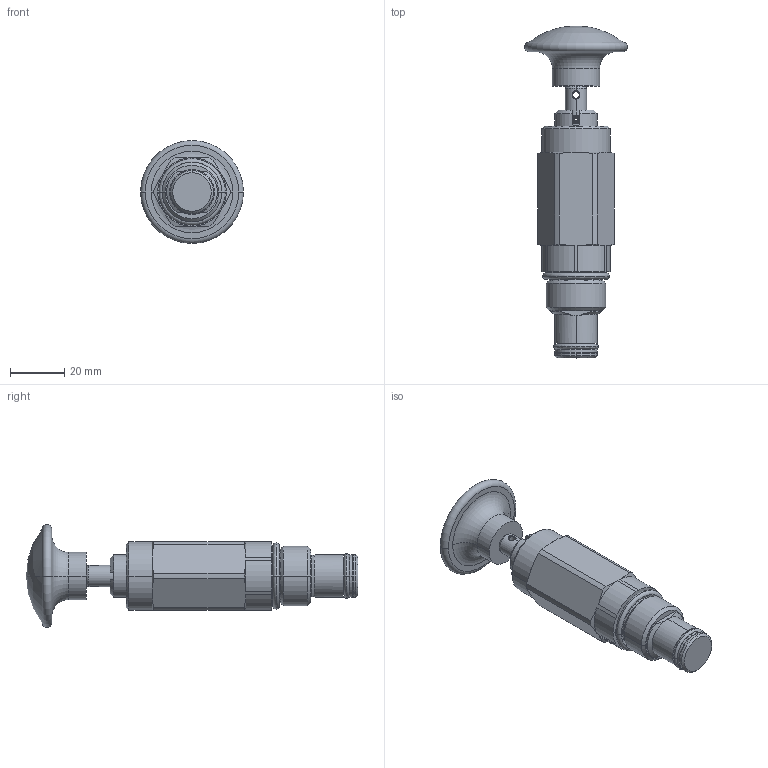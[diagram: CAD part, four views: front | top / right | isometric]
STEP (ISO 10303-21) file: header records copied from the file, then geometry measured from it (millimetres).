
FILE_DESCRIPTION((''),'2;1');
FILE_NAME('5271505_SW0004','2009-02-04T',('jcs'),(''),'PRO/ENGINEER BY PARAMETRIC TECHNOLOGY CORPORATION, 2008010','PRO/ENGINEER BY PARAMETRIC TECHNOLOGY CORPORATION, 2008010','');
FILE_SCHEMA(('CONFIG_CONTROL_DESIGN'));
Length unit declared in the file: inch
Products named in the file (1): 5271505_SW0004
Bounding box: 38.1 x 122.91 x 38.1 mm (x, y, z)
Volume: 49116.3 mm3; surface area: 12949.7 mm2
Topology: 3 solids, 4 shells, 163 faces, 400 edges, 243 vertices
Faces by surface type: cylinder 48, plane 43, cone 36, torus 18, revolution 16, sphere 2
Entity records: 5604 total; most frequent: CARTESIAN_POINT 1728, DIRECTION 818, ORIENTED_EDGE 796, EDGE_CURVE 398, AXIS2_PLACEMENT_3D 333, VERTEX_POINT 243, CIRCLE 186, EDGE_LOOP 171
